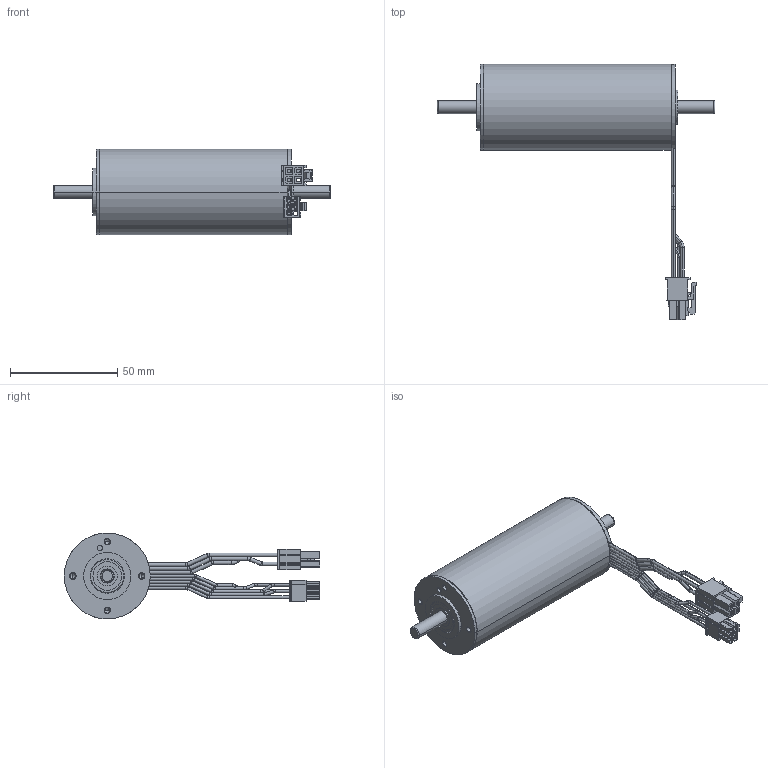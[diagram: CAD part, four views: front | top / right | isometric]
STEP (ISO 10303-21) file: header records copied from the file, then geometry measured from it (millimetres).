
FILE_DESCRIPTION((''),'2;1');
FILE_NAME('6045218_ASM','2022-02-08T18:24:29',('MMKMJOLE'),(''),'CREO PARAMETRIC BY PTC INC, 2020342','CREO PARAMETRIC BY PTC INC, 2020342','');
FILE_SCHEMA(('CONFIG_CONTROL_DESIGN','SHAPE_APPEARANCE_LAYERS_GROUPS'));
Length unit declared in the file: millimetre
Products named in the file (5): 6045219; 2223352; 914591; 914592; 6045218_ASM
Assembly tree (4 placements, depth 2):
  6045218_ASM
    6045219
    2223352
    914591
    914592
Bounding box: 129.3 x 118.9 x 40 mm (x, y, z)
Volume: 118557.2 mm3; surface area: 21518.8 mm2
Topology: 9 solids, 19 shells, 674 faces, 1699 edges, 1064 vertices
Faces by surface type: plane 379, cylinder 178, torus 76, cone 41
Entity records: 24296 total; most frequent: CARTESIAN_POINT 3528, DIRECTION 3519, ORIENTED_EDGE 3310, EDGE_CURVE 1675, PRESENTATION_STYLE_ASSIGNMENT 1369, STYLED_ITEM 1369, CURVE_STYLE 1361, VECTOR 1177
